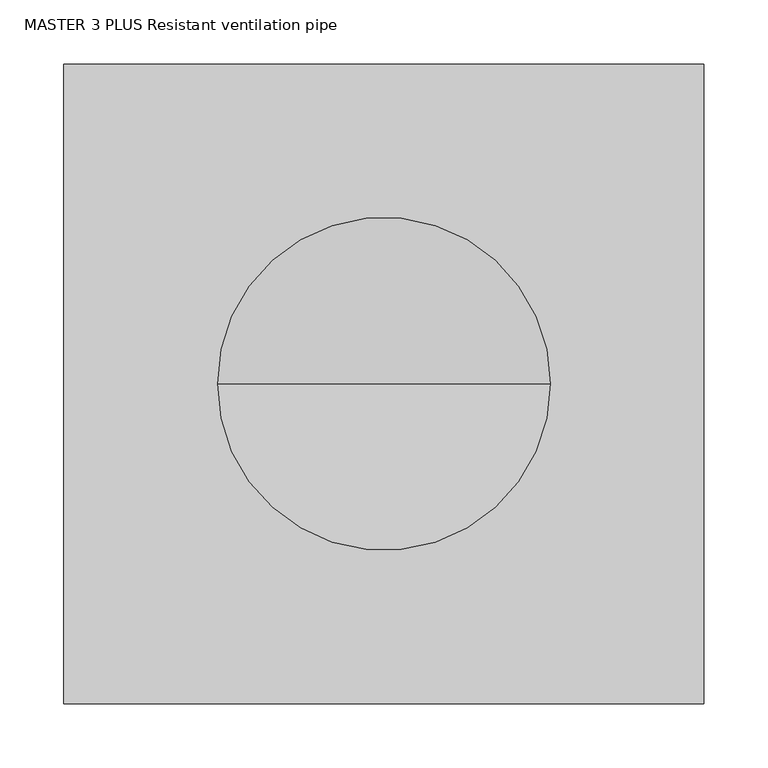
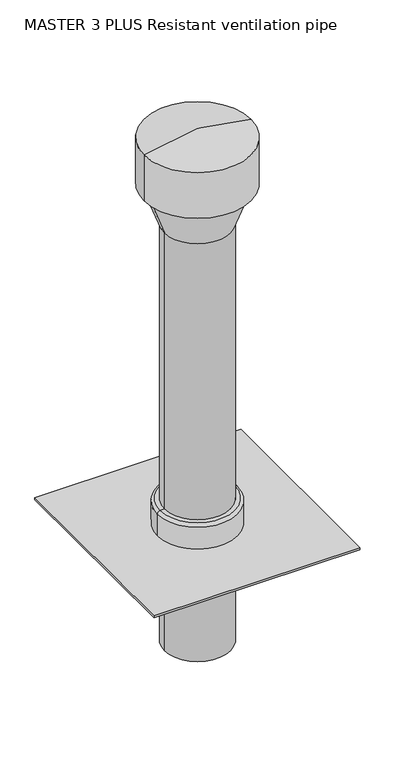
"""IFC4 building model written with IfcOpenShell, lengths in millimetres: valve geometry, MASTER 3 PLUS Resistant ventilation pipe : DN160, Lesp = 300, L3 = 1010 mm."""

from ifc_helpers import new_model, si_unit, point, frame, origin, origin_with_axes, origin_2d, place, context, project, spatial, polyline, circle_curve, ellipse_curve, trimmed, segment, composite_curve, outline, extrude, source, transform, mapped, element, save
from ifc_brep_helpers import plane_surface, cylinder_surface, revolved_surface, advanced_brep


def master_3_plus_resistant_ventilation_pipe_06bb1ccc(model_context):
    return source(origin(), model_context, "Body", "SolidModel", [
        extrude(outline(polyline([(250.0, 250.0), (250.0, -250.0), (-250.0, -250.0), (-250.0, 250.0), (250.0, 250.0)]), holes=[composite_curve([segment(trimmed(circle_curve(origin_2d(), 80.0), [point((-80.0, 0.0))], [point((80.0, 0.0))], True, "CARTESIAN"), True, "CONTINUOUS"), segment(trimmed(circle_curve(origin_2d(), 80.0), [point((80.0, 0.0))], [point((-80.0, 0.0))], True, "CARTESIAN"), True, "CONTINUOUS")], self_intersect=False)]), frame((0.0, 0.0, 294.9838403), z_axis=(0.0, 0.0, 1.0), x_axis=(1.0, 0.0, 0.0)), (0.0, 0.0, 1.0), 5.0161597),
        advanced_brep(
        [(97.5, 0.0, 300.0), (-97.5, 0.0, 300.0), (-97.5, 0.0, 355.75), (97.5, 0.0, 355.75), (80.0, 0.0, 300.0), (-80.0, 0.0, 300.0), (80.0, 0.0, 363.0), (-80.0, 0.0, 363.0), (90.25, 0.0, 363.0), (-90.25, 0.0, 363.0)],
        [
            (0, 1, circle_curve(frame((0.0, 0.0, 300.0), z_axis=(0.0, 0.0, 1.0), x_axis=(-1.0, 0.0, 0.0)), 97.5)),
            (1, 2),
            (2, 3, circle_curve(frame((0.0, 0.0, 355.75), z_axis=(0.0, 0.0, -1.0), x_axis=(-1.0, 0.0, 0.0)), 97.5)),
            (3, 0),
            (1, 0, circle_curve(frame((0.0, 0.0, 300.0), z_axis=(0.0, 0.0, 1.0), x_axis=(-1.0, 0.0, 0.0)), 97.5)),
            (3, 2, circle_curve(frame((0.0, 0.0, 355.75), z_axis=(0.0, 0.0, -1.0), x_axis=(-1.0, 0.0, 0.0)), 97.5)),
            (4, 5, circle_curve(frame((0.0, 0.0, 300.0), z_axis=(0.0, 0.0, 1.0), x_axis=(-1.0, 0.0, 0.0)), 80.0)),
            (5, 1),
            (0, 4),
            (5, 4, circle_curve(frame((0.0, 0.0, 300.0), z_axis=(0.0, 0.0, 1.0), x_axis=(-1.0, 0.0, 0.0)), 80.0)),
            (6, 7, circle_curve(frame((0.0, 0.0, 363.0), z_axis=(0.0, 0.0, 1.0), x_axis=(-1.0, 0.0, 0.0)), 80.0)),
            (7, 5),
            (4, 6),
            (7, 6, circle_curve(frame((0.0, 0.0, 363.0), z_axis=(0.0, 0.0, 1.0), x_axis=(-1.0, 0.0, 0.0)), 80.0)),
            (8, 9, circle_curve(frame((0.0, 0.0, 363.0), z_axis=(0.0, 0.0, 1.0), x_axis=(-1.0, 0.0, 0.0)), 90.25)),
            (9, 7),
            (6, 8),
            (9, 8, circle_curve(frame((0.0, 0.0, 363.0), z_axis=(0.0, 0.0, 1.0), x_axis=(-1.0, 0.0, 0.0)), 90.25)),
            (2, 9, circle_curve(frame((-90.25, 0.0, 355.75), z_axis=(0.0, 1.0, 0.0), x_axis=(1.0, 0.0, 0.0)), 7.25)),
            (8, 3, circle_curve(frame((90.25, 0.0, 355.75), z_axis=(0.0, 1.0, 0.0), x_axis=(-1.0, 0.0, 0.0)), 7.25)),
        ],
        [
            cylinder_surface(frame((0.0, 0.0, 363.0), z_axis=(0.0, 0.0, -1.0), x_axis=(-1.0, 0.0, 0.0)), 97.5),
            plane_surface(frame((0.0, 0.0, 300.0), z_axis=(0.0, 0.0, -1.0), x_axis=(-1.0, 0.0, 0.0))),
            revolved_surface(polyline([(-80.0, 0.0, 300.0), (-80.0, 0.0, 363.0)]), (0.0, 0.0, 363.0), (0.0, 0.0, -1.0)),
            plane_surface(frame((0.0, 0.0, 363.0), z_axis=(0.0, 0.0, 1.0), x_axis=(-1.0, 0.0, 0.0))),
            revolved_surface(trimmed(ellipse_curve(frame((-90.25, 0.0, 355.75), z_axis=(0.0, -1.0, 0.0), x_axis=(1.0, 0.0, 0.0)), 7.25, 7.25), [point((-90.25, 0.0, 363.0))], [point((-97.5, 0.0, 355.75))], True, "CARTESIAN"), (0.0, 0.0, 363.0), (0.0, 0.0, -1.0)),
        ],
        [
            (0, [[1, 2, 3, 4]]),
            (0, [[5, -4, 6, -2]]),
            (1, [[7, 8, -1, 9]]),
            (1, [[10, -9, -5, -8]]),
            (2, [[11, 12, -7, 13]]),
            (2, [[14, -13, -10, -12]]),
            (3, [[15, 16, -11, 17]]),
            (3, [[18, -17, -14, -16]]),
            (4, [[-3, 19, -15, 20]]),
            (4, [[-6, -20, -18, -19]]),
        ],
    ),
        advanced_brep(
        [(80.0, 0.0, 1070.0), (-80.0, 0.0, 1070.0), (-116.3970234, 0.0, 1170.0), (116.3970234, 0.0, 1170.0), (0.0, 0.0, 1070.0), (130.0, 0.0, 1287.0774925), (-130.0, 0.0, 1287.0774925), (0.0, 0.0, 1310.0), (130.0, 0.0, 1170.0), (-130.0, 0.0, 1170.0)],
        [
            (0, 1, circle_curve(frame((0.0, 0.0, 1070.0), z_axis=(0.0, 0.0, 1.0), x_axis=(-1.0, 0.0, 0.0)), 80.0)),
            (1, 2),
            (2, 3, circle_curve(frame((0.0, 0.0, 1170.0), z_axis=(0.0, 0.0, -1.0), x_axis=(-1.0, 0.0, 0.0)), 116.3970234)),
            (3, 0),
            (1, 0, circle_curve(frame((0.0, 0.0, 1070.0), z_axis=(0.0, 0.0, 1.0), x_axis=(-1.0, 0.0, 0.0)), 80.0)),
            (3, 2, circle_curve(frame((0.0, 0.0, 1170.0), z_axis=(0.0, 0.0, -1.0), x_axis=(-1.0, 0.0, 0.0)), 116.3970234)),
            (4, 1),
            (0, 4),
            (5, 6, circle_curve(frame((0.0, 0.0, 1287.0774925), z_axis=(0.0, 0.0, 1.0), x_axis=(-1.0, 0.0, 0.0)), 130.0)),
            (6, 7),
            (7, 5),
            (6, 5, circle_curve(frame((0.0, 0.0, 1287.0774925), z_axis=(0.0, 0.0, 1.0), x_axis=(-1.0, 0.0, 0.0)), 130.0)),
            (8, 9, circle_curve(frame((0.0, 0.0, 1170.0), z_axis=(0.0, 0.0, 1.0), x_axis=(-1.0, 0.0, 0.0)), 130.0)),
            (9, 6),
            (5, 8),
            (9, 8, circle_curve(frame((0.0, 0.0, 1170.0), z_axis=(0.0, 0.0, 1.0), x_axis=(-1.0, 0.0, 0.0)), 130.0)),
            (2, 9),
            (8, 3),
        ],
        [
            revolved_surface(polyline([(-116.3970234, 0.0, 1170.0), (-80.0, 0.0, 1070.0)]), (0.0, 0.0, 1310.0), (0.0, 0.0, -1.0)),
            plane_surface(frame((0.0, 0.0, 1070.0), z_axis=(0.0, 0.0, -1.0), x_axis=(-1.0, 0.0, 0.0))),
            revolved_surface(polyline([(0.0, 0.0, 1310.0), (-130.0, 0.0, 1287.0774925)]), (0.0, 0.0, 1310.0), (0.0, 0.0, -1.0)),
            cylinder_surface(frame((0.0, 0.0, 1310.0), z_axis=(0.0, 0.0, -1.0), x_axis=(-1.0, 0.0, 0.0)), 130.0),
            plane_surface(frame((0.0, 0.0, 1170.0), z_axis=(0.0, 0.0, -1.0), x_axis=(-1.0, 0.0, 0.0))),
        ],
        [
            (0, [[1, 2, 3, 4]]),
            (0, [[5, -4, 6, -2]]),
            (1, [[7, -1, 8]]),
            (1, [[-8, -5, -7]]),
            (2, [[9, 10, 11]]),
            (2, [[12, -11, -10]]),
            (3, [[13, 14, -9, 15]]),
            (3, [[16, -15, -12, -14]]),
            (4, [[-3, 17, -13, 18]]),
            (4, [[-6, -18, -16, -17]]),
        ],
    ),
        extrude(outline(composite_curve([segment(trimmed(circle_curve(origin_2d(), 80.0), [point((80.0, 0.0))], [point((-80.0, 0.0))], False, "CARTESIAN"), True, "CONTINUOUS"), segment(trimmed(circle_curve(origin_2d(), 80.0), [point((-80.0, 0.0))], [point((80.0, 0.0))], False, "CARTESIAN"), True, "CONTINUOUS")], self_intersect=False)), frame((0.0, 0.0, 300.0), z_axis=(0.0, 0.0, 1.0), x_axis=(1.0, 0.0, 0.0)), (0.0, 0.0, 1.0), 870.0),
        extrude(outline(composite_curve([segment(trimmed(circle_curve(origin_2d(), 80.0), [point((-80.0, 0.0))], [point((80.0, 0.0))], False, "CARTESIAN"), True, "CONTINUOUS"), segment(trimmed(circle_curve(origin_2d(), 80.0), [point((80.0, 0.0))], [point((-80.0, 0.0))], False, "CARTESIAN"), True, "CONTINUOUS")], self_intersect=False)), origin_with_axes(), (0.0, 0.0, 1.0), 294.9838403),
    ])


if __name__ == "__main__":
    model = new_model("IFC4")
    model_context = context("Model", 3, world=origin())
    ifc_project = project(units=[si_unit("LENGTHUNIT", "METRE", prefix="MILLI")], contexts=[model_context])
    site = spatial("IfcSite", under=ifc_project)
    building = spatial("IfcBuilding", under=site)
    placement = place(None, origin())
    master_3_plus_resistant_ventilation_pipe_shape = master_3_plus_resistant_ventilation_pipe_06bb1ccc(model_context)
    element("IfcValve", 1, ObjectType="MASTER 3 PLUS Resistant ventilation pipe : DN160, Lesp = 300, L3 = 1010 mm", at=placement, inside=building, context=model_context, shape_type="MappedRepresentation", body=[
        mapped(master_3_plus_resistant_ventilation_pipe_shape, transform((0.0, 0.0, 0.0), x_axis=(1.0, 0.0, 0.0), y_axis=(0.0, 1.0, 0.0), z_axis=(0.0, 0.0, 1.0))),
    ])
    save(model, "model.ifc")
